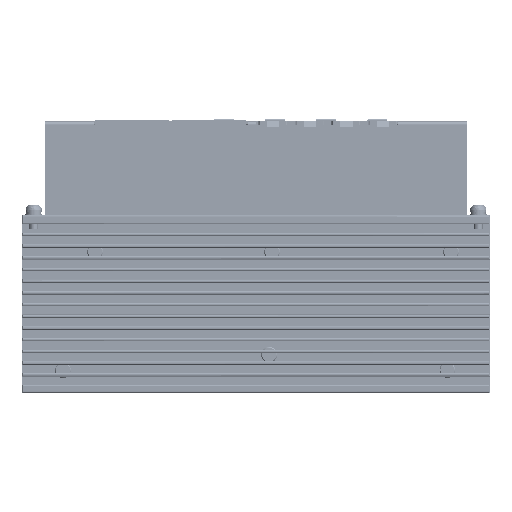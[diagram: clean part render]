
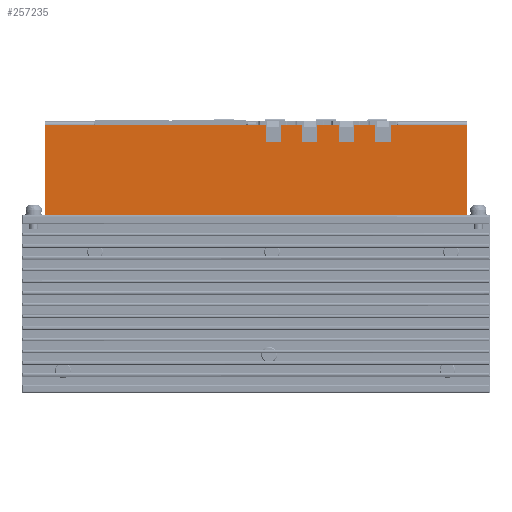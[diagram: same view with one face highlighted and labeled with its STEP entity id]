
A CAD part, left-side view. The second image highlights one B-rep face of the part: STEP entity #257235.
In plain terms, the highlighted planar face has unit normal (-1, 0, 0).
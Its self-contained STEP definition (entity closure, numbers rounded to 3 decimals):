
#77684=DIRECTION('',(0.,1.,0.));
#77685=VECTOR('',#77684,16.45);
#77686=CARTESIAN_POINT('',(-20.,55.55,91.9));
#77687=LINE('',#77686,#77685);
#77692=DIRECTION('',(0.,-1.,0.));
#77693=VECTOR('',#77692,5.2);
#77694=CARTESIAN_POINT('',(-20.,-40.796,86.));
#77695=LINE('',#77694,#77693);
#77696=DIRECTION('',(0.,0.,1.));
#77697=VECTOR('',#77696,5.9);
#77698=CARTESIAN_POINT('',(-20.,-45.996,86.));
#77699=LINE('',#77698,#77697);
#77700=DIRECTION('',(0.,-1.,0.));
#77701=VECTOR('',#77700,2.7);
#77702=CARTESIAN_POINT('',(-20.,-45.996,91.9));
#77703=LINE('',#77702,#77701);
#77704=DIRECTION('',(0.,0.,-1.));
#77705=VECTOR('',#77704,30.9);
#77706=CARTESIAN_POINT('',(-20.,-72.,91.9));
#77707=LINE('',#77706,#77705);
#77708=DIRECTION('',(0.,1.,0.));
#77709=VECTOR('',#77708,144.);
#77710=CARTESIAN_POINT('',(-20.,-72.,61.));
#77711=LINE('',#77710,#77709);
#77712=DIRECTION('',(0.,0.,1.));
#77713=VECTOR('',#77712,30.9);
#77714=CARTESIAN_POINT('',(-20.,72.,61.));
#77715=LINE('',#77714,#77713);
#77716=DIRECTION('',(0.,-1.,0.));
#77717=VECTOR('',#77716,52.7);
#77718=CARTESIAN_POINT('',(-20.,55.55,91.9));
#77719=LINE('',#77718,#77717);
#77720=DIRECTION('',(0.,-1.,0.));
#77721=VECTOR('',#77720,3.2);
#77722=CARTESIAN_POINT('',(-20.,-0.096,91.9));
#77723=LINE('',#77722,#77721);
#77724=DIRECTION('',(0.,-1.,0.));
#77725=VECTOR('',#77724,5.2);
#77726=CARTESIAN_POINT('',(-20.,-3.296,86.));
#77727=LINE('',#77726,#77725);
#77728=DIRECTION('',(0.,0.,1.));
#77729=VECTOR('',#77728,5.9);
#77730=CARTESIAN_POINT('',(-20.,-8.496,86.));
#77731=LINE('',#77730,#77729);
#77732=DIRECTION('',(0.,-1.,0.));
#77733=VECTOR('',#77732,7.3);
#77734=CARTESIAN_POINT('',(-20.,-8.496,91.9));
#77735=LINE('',#77734,#77733);
#77736=DIRECTION('',(0.,-1.,0.));
#77737=VECTOR('',#77736,5.2);
#77738=CARTESIAN_POINT('',(-20.,-15.796,86.));
#77739=LINE('',#77738,#77737);
#77740=DIRECTION('',(0.,0.,1.));
#77741=VECTOR('',#77740,5.9);
#77742=CARTESIAN_POINT('',(-20.,-20.996,86.));
#77743=LINE('',#77742,#77741);
#77744=DIRECTION('',(0.,-1.,0.));
#77745=VECTOR('',#77744,7.3);
#77746=CARTESIAN_POINT('',(-20.,-20.996,91.9));
#77747=LINE('',#77746,#77745);
#77748=DIRECTION('',(0.,-1.,0.));
#77749=VECTOR('',#77748,5.2);
#77750=CARTESIAN_POINT('',(-20.,-28.296,86.));
#77751=LINE('',#77750,#77749);
#77752=DIRECTION('',(0.,0.,1.));
#77753=VECTOR('',#77752,5.9);
#77754=CARTESIAN_POINT('',(-20.,-33.496,86.));
#77755=LINE('',#77754,#77753);
#77756=DIRECTION('',(0.,-1.,0.));
#77757=VECTOR('',#77756,7.3);
#77758=CARTESIAN_POINT('',(-20.,-33.496,91.9));
#77759=LINE('',#77758,#77757);
#77760=DIRECTION('',(0.,0.,1.));
#77761=VECTOR('',#77760,5.9);
#77762=CARTESIAN_POINT('',(-20.,-40.796,86.));
#77763=LINE('',#77762,#77761);
#77792=DIRECTION('',(0.,0.,1.));
#77793=VECTOR('',#77792,5.9);
#77794=CARTESIAN_POINT('',(-20.,-28.296,86.));
#77795=LINE('',#77794,#77793);
#77824=DIRECTION('',(0.,0.,1.));
#77825=VECTOR('',#77824,5.9);
#77826=CARTESIAN_POINT('',(-20.,-15.796,86.));
#77827=LINE('',#77826,#77825);
#77856=DIRECTION('',(0.,0.,1.));
#77857=VECTOR('',#77856,5.9);
#77858=CARTESIAN_POINT('',(-20.,-3.296,86.));
#77859=LINE('',#77858,#77857);
#77886=DIRECTION('',(0.,1.,0.));
#77887=VECTOR('',#77886,2.946);
#77888=CARTESIAN_POINT('',(-20.,-0.096,91.9));
#77889=LINE('',#77888,#77887);
#78146=DIRECTION('',(0.,1.,0.));
#78147=VECTOR('',#78146,23.304);
#78148=CARTESIAN_POINT('',(-20.,-72.,91.9));
#78149=LINE('',#78148,#78147);
#108741=CARTESIAN_POINT('',(-20.,-48.696,91.9));
#108742=VERTEX_POINT('',#108741);
#108745=CARTESIAN_POINT('',(-20.,-72.,91.9));
#108746=VERTEX_POINT('',#108745);
#108793=CARTESIAN_POINT('',(-20.,-40.796,86.));
#108794=CARTESIAN_POINT('',(-20.,-40.796,91.9));
#108795=VERTEX_POINT('',#108793);
#108796=VERTEX_POINT('',#108794);
#108797=CARTESIAN_POINT('',(-20.,-45.996,86.));
#108798=VERTEX_POINT('',#108797);
#108799=CARTESIAN_POINT('',(-20.,-45.996,91.9));
#108800=VERTEX_POINT('',#108799);
#108801=CARTESIAN_POINT('',(-20.,-72.,61.));
#108802=VERTEX_POINT('',#108801);
#108803=CARTESIAN_POINT('',(-20.,72.,61.));
#108804=VERTEX_POINT('',#108803);
#108805=CARTESIAN_POINT('',(-20.,72.,91.9));
#108806=VERTEX_POINT('',#108805);
#108807=CARTESIAN_POINT('',(-20.,55.55,91.9));
#108808=VERTEX_POINT('',#108807);
#108809=CARTESIAN_POINT('',(-20.,2.85,91.9));
#108810=VERTEX_POINT('',#108809);
#108811=CARTESIAN_POINT('',(-20.,-0.096,91.9));
#108812=VERTEX_POINT('',#108811);
#108813=CARTESIAN_POINT('',(-20.,-3.296,91.9));
#108814=VERTEX_POINT('',#108813);
#108815=CARTESIAN_POINT('',(-20.,-3.296,86.));
#108816=VERTEX_POINT('',#108815);
#108817=CARTESIAN_POINT('',(-20.,-8.496,86.));
#108818=VERTEX_POINT('',#108817);
#108819=CARTESIAN_POINT('',(-20.,-8.496,91.9));
#108820=VERTEX_POINT('',#108819);
#108821=CARTESIAN_POINT('',(-20.,-15.796,91.9));
#108822=VERTEX_POINT('',#108821);
#108823=CARTESIAN_POINT('',(-20.,-15.796,86.));
#108824=VERTEX_POINT('',#108823);
#108825=CARTESIAN_POINT('',(-20.,-20.996,86.));
#108826=VERTEX_POINT('',#108825);
#108827=CARTESIAN_POINT('',(-20.,-20.996,91.9));
#108828=VERTEX_POINT('',#108827);
#108829=CARTESIAN_POINT('',(-20.,-28.296,91.9));
#108830=VERTEX_POINT('',#108829);
#108831=CARTESIAN_POINT('',(-20.,-28.296,86.));
#108832=VERTEX_POINT('',#108831);
#108833=CARTESIAN_POINT('',(-20.,-33.496,86.));
#108834=VERTEX_POINT('',#108833);
#108835=CARTESIAN_POINT('',(-20.,-33.496,91.9));
#108836=VERTEX_POINT('',#108835);
#257182=CARTESIAN_POINT('',(-20.,37.786,93.));
#257183=DIRECTION('',(-1.,0.,0.));
#257184=DIRECTION('',(0.,1.,0.));
#257185=AXIS2_PLACEMENT_3D('',#257182,#257183,#257184);
#257186=PLANE('',#257185);
#257188=ORIENTED_EDGE('',*,*,#257187,.F.);
#257190=ORIENTED_EDGE('',*,*,#257189,.T.);
#257192=ORIENTED_EDGE('',*,*,#257191,.T.);
#257194=ORIENTED_EDGE('',*,*,#257193,.T.);
#257196=ORIENTED_EDGE('',*,*,#257195,.F.);
#257198=ORIENTED_EDGE('',*,*,#257197,.T.);
#257200=ORIENTED_EDGE('',*,*,#257199,.T.);
#257201=ORIENTED_EDGE('',*,*,#257097,.T.);
#257202=ORIENTED_EDGE('',*,*,#257167,.F.);
#257204=ORIENTED_EDGE('',*,*,#257203,.T.);
#257206=ORIENTED_EDGE('',*,*,#257205,.F.);
#257208=ORIENTED_EDGE('',*,*,#257207,.T.);
#257210=ORIENTED_EDGE('',*,*,#257209,.F.);
#257212=ORIENTED_EDGE('',*,*,#257211,.T.);
#257214=ORIENTED_EDGE('',*,*,#257213,.T.);
#257216=ORIENTED_EDGE('',*,*,#257215,.T.);
#257218=ORIENTED_EDGE('',*,*,#257217,.F.);
#257220=ORIENTED_EDGE('',*,*,#257219,.T.);
#257222=ORIENTED_EDGE('',*,*,#257221,.T.);
#257224=ORIENTED_EDGE('',*,*,#257223,.T.);
#257226=ORIENTED_EDGE('',*,*,#257225,.F.);
#257228=ORIENTED_EDGE('',*,*,#257227,.T.);
#257230=ORIENTED_EDGE('',*,*,#257229,.T.);
#257232=ORIENTED_EDGE('',*,*,#257231,.T.);
#257233=EDGE_LOOP('',(#257188,#257190,#257192,#257194,#257196,#257198,#257200,
#257201,#257202,#257204,#257206,#257208,#257210,#257212,#257214,#257216,#257218,
#257220,#257222,#257224,#257226,#257228,#257230,#257232));
#257234=FACE_OUTER_BOUND('',#257233,.F.);
#257235=ADVANCED_FACE('',(#257234),#257186,.T.);
#257097=EDGE_CURVE('',#108804,#108806,#77715,.T.);
#257167=EDGE_CURVE('',#108808,#108806,#77687,.T.);
#257187=EDGE_CURVE('',#108795,#108796,#77763,.T.);
#257189=EDGE_CURVE('',#108795,#108798,#77695,.T.);
#257191=EDGE_CURVE('',#108798,#108800,#77699,.T.);
#257193=EDGE_CURVE('',#108800,#108742,#77703,.T.);
#257195=EDGE_CURVE('',#108746,#108742,#78149,.T.);
#257197=EDGE_CURVE('',#108746,#108802,#77707,.T.);
#257199=EDGE_CURVE('',#108802,#108804,#77711,.T.);
#257203=EDGE_CURVE('',#108808,#108810,#77719,.T.);
#257205=EDGE_CURVE('',#108812,#108810,#77889,.T.);
#257207=EDGE_CURVE('',#108812,#108814,#77723,.T.);
#257209=EDGE_CURVE('',#108816,#108814,#77859,.T.);
#257211=EDGE_CURVE('',#108816,#108818,#77727,.T.);
#257213=EDGE_CURVE('',#108818,#108820,#77731,.T.);
#257215=EDGE_CURVE('',#108820,#108822,#77735,.T.);
#257217=EDGE_CURVE('',#108824,#108822,#77827,.T.);
#257219=EDGE_CURVE('',#108824,#108826,#77739,.T.);
#257221=EDGE_CURVE('',#108826,#108828,#77743,.T.);
#257223=EDGE_CURVE('',#108828,#108830,#77747,.T.);
#257225=EDGE_CURVE('',#108832,#108830,#77795,.T.);
#257227=EDGE_CURVE('',#108832,#108834,#77751,.T.);
#257229=EDGE_CURVE('',#108834,#108836,#77755,.T.);
#257231=EDGE_CURVE('',#108836,#108796,#77759,.T.);
